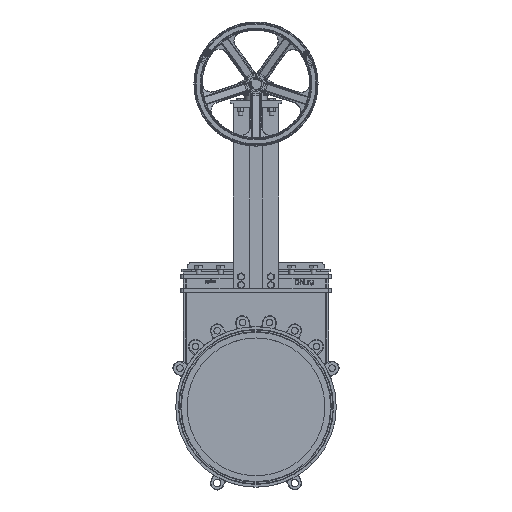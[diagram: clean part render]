
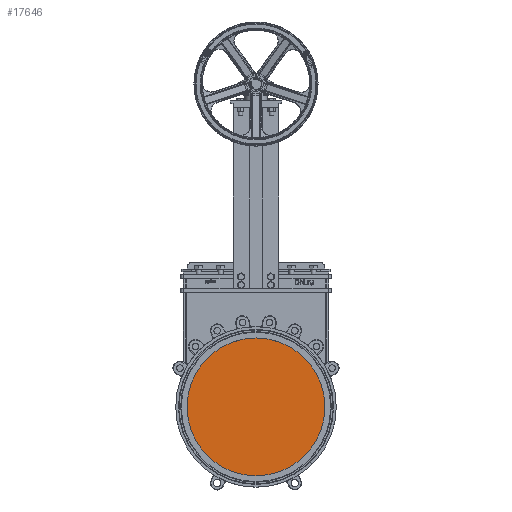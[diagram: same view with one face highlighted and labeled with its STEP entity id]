
A CAD part, top view. The second image highlights one B-rep face of the part: STEP entity #17646.
In plain terms, the highlighted planar face has unit normal (0, 0, 1).
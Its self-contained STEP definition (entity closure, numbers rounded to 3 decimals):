
#17646=ADVANCED_FACE('',(#40566),#40568,.T.);
#40566=FACE_BOUND('',#40567,.T.);
#40567=EDGE_LOOP('',(#50480));
#40568=PLANE('',#40569);
#40569=AXIS2_PLACEMENT_3D('',#40570,#40571,#40572);
#40570=CARTESIAN_POINT('',(0.,0.,5.));
#40571=DIRECTION('',(0.,0.,1.));
#40572=DIRECTION('',(1.,0.,0.));
#50480=ORIENTED_EDGE('',*,*,#55272,.T.);
#55272=EDGE_CURVE('',#63108,#63108,#63109,.F.);
#63108=VERTEX_POINT('',#117666);
#63109=CIRCLE('',#117667,250.);
#117666=CARTESIAN_POINT('',(0.,250.,5.));
#117667=AXIS2_PLACEMENT_3D('',#117668,#117669,#117670);
#117668=CARTESIAN_POINT('',(0.,0.,5.));
#117669=DIRECTION('',(0.,0.,-1.));
#117670=DIRECTION('',(0.,1.,0.));
